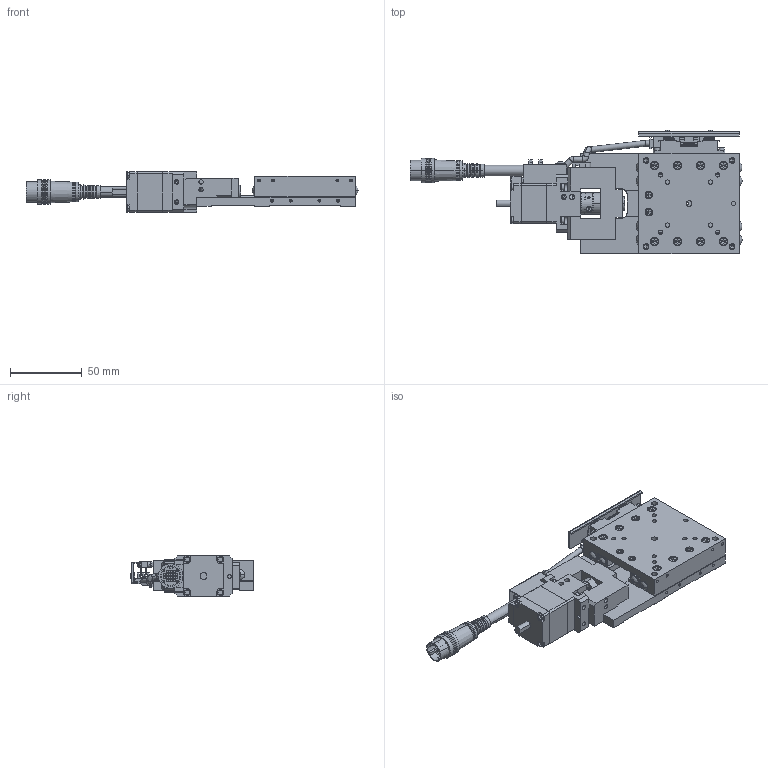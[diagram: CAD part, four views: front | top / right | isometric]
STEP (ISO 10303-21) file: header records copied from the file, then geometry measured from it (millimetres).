
FILE_DESCRIPTION (( 'STEP AP203' ), '1' );
FILE_NAME ('XA07A-R202-R.STEP', '2019-02-20T07:47:21', ( '' ), ( '' ), 'SwSTEP 2.0', 'SolidWorks 2018', '' );
FILE_SCHEMA (( 'CONFIG_CONTROL_DESIGN' ));
Length unit declared in the file: millimetre
Products named in the file (6): base; base-Part-1; table; base-Part-3; XA07A-R202-R; base-Part-2
Assembly tree (5 placements, depth 3):
  XA07A-R202-R
    base
      base-Part-1
      base-Part-2
      base-Part-3
    table
Bounding box: 231.39 x 86.18 x 28 mm (x, y, z)
Volume: 167863.6 mm3; surface area: 71060 mm2
Topology: 4 solids, 8 shells, 2221 faces, 5553 edges, 3414 vertices
Faces by surface type: plane 1294, cylinder 549, cone 300, torus 44, sphere 34
Entity records: 66880 total; most frequent: CARTESIAN_POINT 12267, DIRECTION 11750, ORIENTED_EDGE 10910, EDGE_CURVE 5455, AXIS2_PLACEMENT_3D 4205, VERTEX_POINT 3408, LINE 3340, VECTOR 3340
